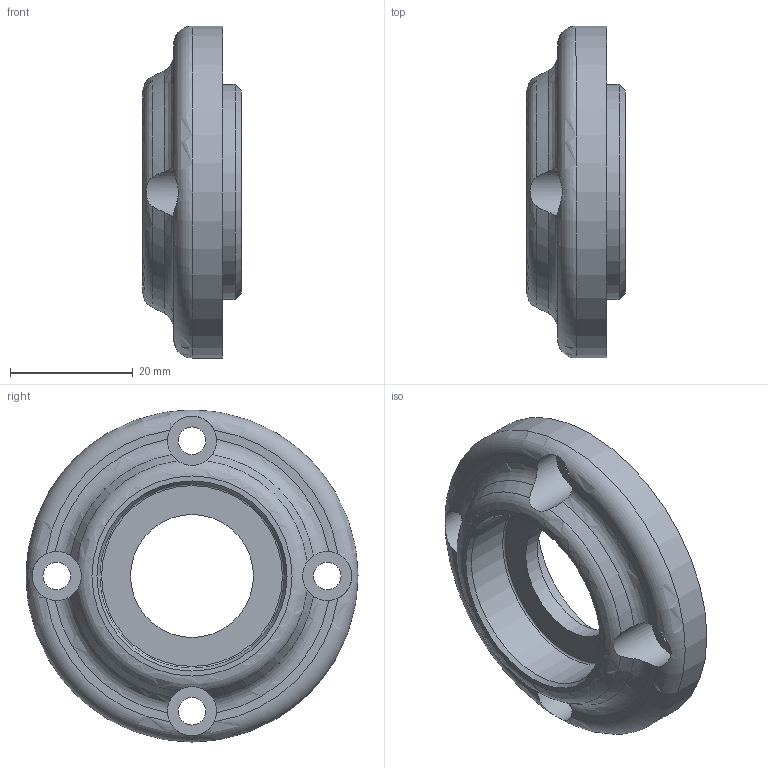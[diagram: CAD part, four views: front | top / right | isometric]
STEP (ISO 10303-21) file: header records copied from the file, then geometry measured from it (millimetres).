
FILE_DESCRIPTION(/* description */ (''),/* implementation_level */ '2;1');
FILE_NAME(/* name */ '',/* time_stamp */ '2026-05-29T16:28:49+09:00',/* author */ ('jhkim'),/* organization */ (''),/* preprocessor_version */ 'ST-DEVELOPER v20.1',/* originating_system */ 'Autodesk Inventor 2027',/* authorisation */ '');
FILE_SCHEMA (('AUTOMOTIVE_DESIGN { 1 0 10303 214 3 1 1 }'));
Length unit declared in the file: millimetre
Products named in the file (1): 앞 커버
Bounding box: 16 x 54 x 54 mm (x, y, z)
Volume: 15455.8 mm3; surface area: 7454 mm2
Topology: 1 solids, 1 shells, 40 faces, 104 edges, 69 vertices
Faces by surface type: plane 13, cylinder 13, torus 8, cone 6
Full cylindrical faces by diameter (mm): 4.5 x4, 8 x4, 20 x1, 30 x2, 35 x1, 54 x1
Entity records: 1520 total; most frequent: CARTESIAN_POINT 472, DIRECTION 215, ORIENTED_EDGE 208, EDGE_CURVE 104, AXIS2_PLACEMENT_3D 100, VERTEX_POINT 69, CIRCLE 59, EDGE_LOOP 53
